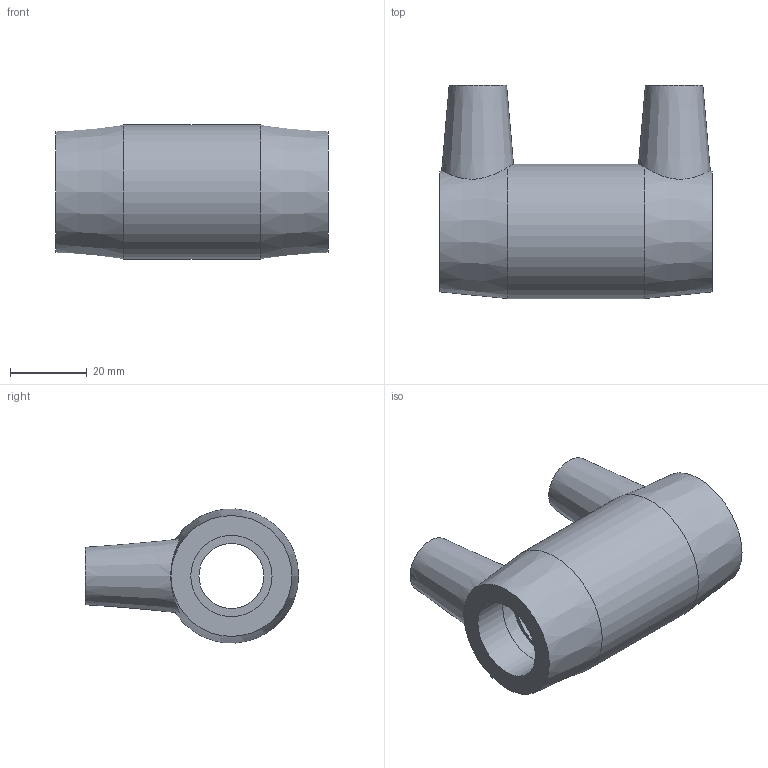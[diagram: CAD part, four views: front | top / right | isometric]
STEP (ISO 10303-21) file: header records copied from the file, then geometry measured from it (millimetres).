
FILE_DESCRIPTION(/* description */ ('PLASSON CTS COUPLER 1/2'''''),/* implementation_level */ '2;1');
FILE_NAME(/* name */ 'C:\Dropbox\KIMPROJECTS-Inventor 2019\99-16-3568-Processing Inch\ASTM ElectroFusion 2021\5901U\5901U004005.ipt.stp',/* time_stamp */ '2021-08-30T09:49:25+03:00',/* author */ ('KIM'),/* organization */ (''),/* preprocessor_version */ 'ST-DEVELOPER v17.2',/* originating_system */ 'Autodesk Inventor 2019',/* authorisation */ '');
FILE_SCHEMA (('AUTOMOTIVE_DESIGN { 1 0 10303 214 3 1 1 }'));
Length unit declared in the file: inch
Products named in the file (1): 5901U004005
Bounding box: 71.12 x 55.63 x 34.98 mm (x, y, z)
Volume: 48207.7 mm3; surface area: 17055.2 mm2
Topology: 1 solids, 1 shells, 30 faces, 68 edges, 48 vertices
Faces by surface type: plane 12, cylinder 10, cone 8
Full cylindrical faces by diameter (mm): 4 x2, 10 x2, 16.96 x1, 21.2 x4, 35.052 x1
Entity records: 999 total; most frequent: CARTESIAN_POINT 235, DIRECTION 166, ORIENTED_EDGE 136, AXIS2_PLACEMENT_3D 75, EDGE_CURVE 68, VERTEX_POINT 48, CIRCLE 44, EDGE_LOOP 40
